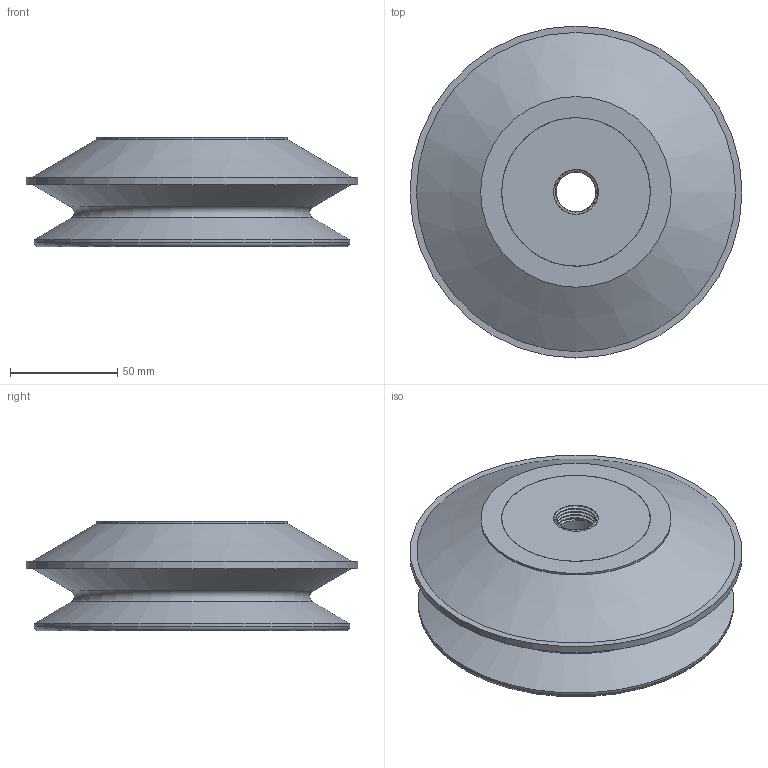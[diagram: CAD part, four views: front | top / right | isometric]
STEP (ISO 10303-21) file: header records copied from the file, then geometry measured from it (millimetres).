
FILE_DESCRIPTION (( 'STEP AP214' ), '1' );
FILE_NAME ('15B.150.001.01-G12F.STEP', '2025-11-14T12:22:23', ( '' ), ( '' ), 'SwSTEP 2.0', 'SolidWorks 2025', '' );
FILE_SCHEMA (( 'AUTOMOTIVE_DESIGN' ));
Length unit declared in the file: inch
Products named in the file (4): 15B.150.001.01-G12F; Anschlussteil.stp; Vakuumsauger.stp; 15B.150.001.01-G12F.stp
Assembly tree (3 placements, depth 3):
  15B.150.001.01-G12F
    15B.150.001.01-G12F.stp
      Vakuumsauger.stp
      Anschlussteil.stp
Bounding box: 155 x 155 x 51 mm (x, y, z)
Volume: 208986.1 mm3; surface area: 98198.1 mm2
Topology: 3 solids, 3 shells, 68 faces, 172 edges, 110 vertices
Faces by surface type: cylinder 29, plane 22, cone 7, bspline 6, torus 4
Full cylindrical faces by diameter (mm): 20.95 x2, 27.5 x1, 69.4 x2, 89 x1, 147.5 x1, 155 x1
Entity records: 6567 total; most frequent: CARTESIAN_POINT 4897, DIRECTION 340, ORIENTED_EDGE 288, AXIS2_PLACEMENT_3D 146, EDGE_CURVE 144, VERTEX_POINT 105, EDGE_LOOP 97, FACE_OUTER_BOUND 80
